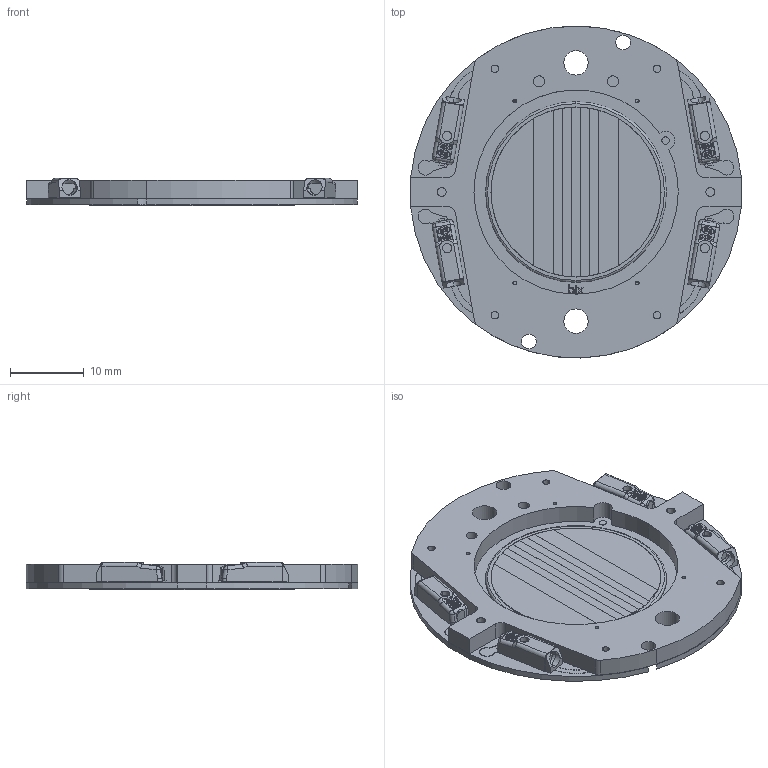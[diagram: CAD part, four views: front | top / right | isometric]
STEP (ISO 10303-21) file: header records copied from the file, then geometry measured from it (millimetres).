
FILE_DESCRIPTION (( 'STEP AP214' ), '1' );
FILE_NAME ('NTW 22 Holder-CoB Assembly.STEP', '2020-06-23T02:50:06', ( '' ), ( '' ), 'SwSTEP 2.0', 'SolidWorks 2020', '' );
FILE_SCHEMA (( 'AUTOMOTIVE_DESIGN' ));
Length unit declared in the file: millimetre
Products named in the file (1): NTW 22 Holder-CoB Assembly
Bounding box: 44.82 x 44.99 x 3.7 mm (x, y, z)
Volume: 3519.4 mm3; surface area: 5965.4 mm2
Topology: 1 solids, 1 shells, 1812 faces, 5043 edges, 3328 vertices
Faces by surface type: plane 1118, cylinder 594, bspline 70, torus 18, sphere 8, cone 4
Entity records: 86233 total; most frequent: CARTESIAN_POINT 19445, ORIENTED_EDGE 10070, DIRECTION 9403, EDGE_CURVE 5035, LINE 3543, VECTOR 3543, VERTEX_POINT 3328, AXIS2_PLACEMENT_3D 2930
